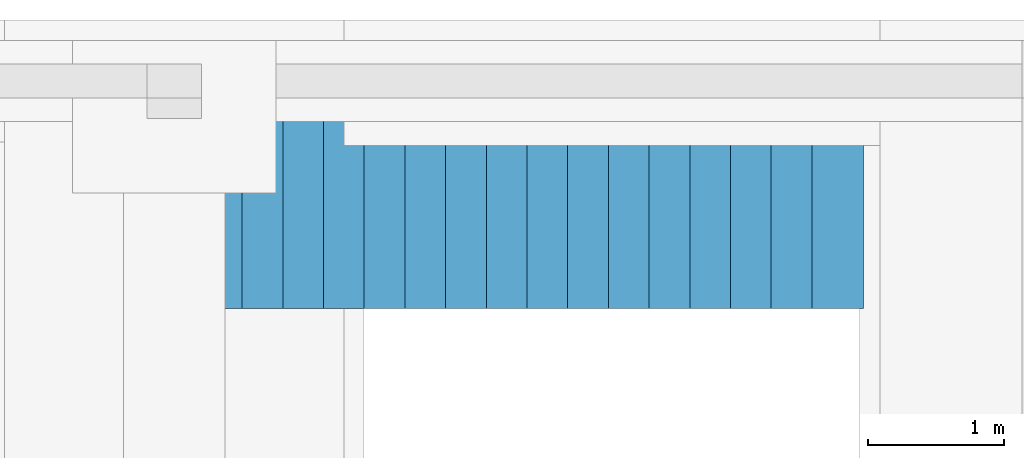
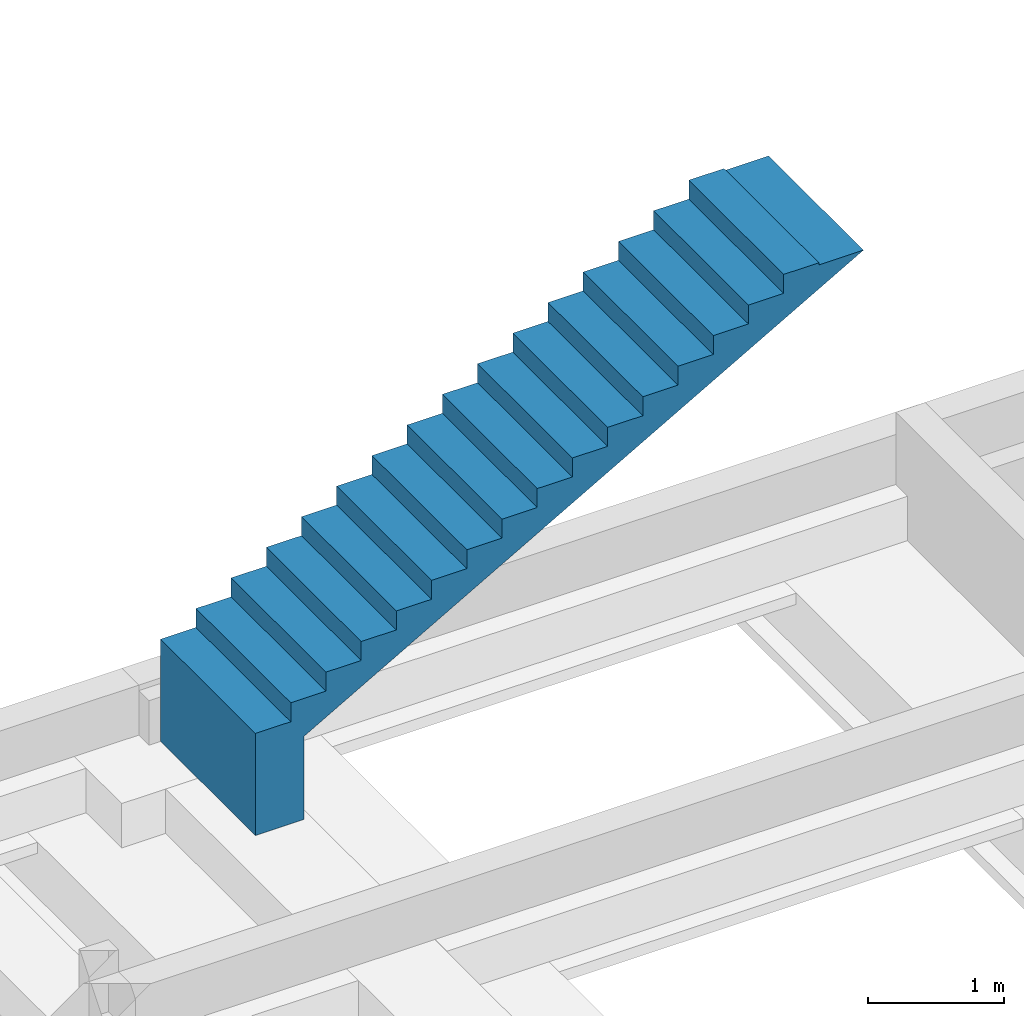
# One storey, part 5 of 6: 1 stair, 1 element without a shape of its own.
"""IFC2X3 building model written with IfcOpenShell, lengths in centimetres."""

from ifc_helpers import new_model, entity, si_unit, converted_unit, derived_unit, direction, frame, origin, place, context, subcontext, project, spatial, polyline, outline, extrude, material, element, aggregate, save


model = new_model("IFC2X3")

# Units and contexts
model_context = context("Model", 3, precision=0.001, world=origin(), true_north=direction((6.12303176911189e-17, 1.0)))
body_context = subcontext(model_context, "Body", "Model", "MODEL_VIEW")
ifc_project = project(units=[si_unit("LENGTHUNIT", "METRE", prefix="CENTI"), si_unit("AREAUNIT", "SQUARE_METRE"), si_unit("VOLUMEUNIT", "CUBIC_METRE"), converted_unit("PLANEANGLEUNIT", "DEGREE", entity("IfcRatioMeasure", 0.0174532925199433), si_unit("PLANEANGLEUNIT", "RADIAN"), dimensions=[0, 0, 0, 0, 0, 0, 0]), si_unit("MASSUNIT", "GRAM", prefix="KILO"), derived_unit("MASSDENSITYUNIT", [(si_unit("MASSUNIT", "GRAM", prefix="KILO"), 1), (si_unit("LENGTHUNIT", "METRE"), -3)]), derived_unit("MOMENTOFINERTIAUNIT", [(si_unit("LENGTHUNIT", "METRE"), 4)]), si_unit("TIMEUNIT", "SECOND"), si_unit("FREQUENCYUNIT", "HERTZ"), si_unit("THERMODYNAMICTEMPERATUREUNIT", "DEGREE_CELSIUS"), derived_unit("THERMALTRANSMITTANCEUNIT", [(si_unit("MASSUNIT", "GRAM", prefix="KILO"), 1), (si_unit("THERMODYNAMICTEMPERATUREUNIT", "KELVIN"), -1), (si_unit("TIMEUNIT", "SECOND"), -3)]), derived_unit("VOLUMETRICFLOWRATEUNIT", [(si_unit("LENGTHUNIT", "METRE"), 3), (si_unit("TIMEUNIT", "SECOND"), -1)]), si_unit("ELECTRICCURRENTUNIT", "AMPERE"), si_unit("ELECTRICVOLTAGEUNIT", "VOLT"), si_unit("POWERUNIT", "WATT"), si_unit("FORCEUNIT", "NEWTON", prefix="KILO"), si_unit("ILLUMINANCEUNIT", "LUX"), si_unit("LUMINOUSFLUXUNIT", "LUMEN"), si_unit("LUMINOUSINTENSITYUNIT", "CANDELA"), derived_unit("USERDEFINED", [(si_unit("MASSUNIT", "GRAM", prefix="KILO"), -1), (si_unit("LENGTHUNIT", "METRE"), -2), (si_unit("TIMEUNIT", "SECOND"), 3), (si_unit("LUMINOUSFLUXUNIT", "LUMEN"), 1)]), derived_unit("LINEARVELOCITYUNIT", [(si_unit("LENGTHUNIT", "METRE"), 1), (si_unit("TIMEUNIT", "SECOND"), -1)]), si_unit("PRESSUREUNIT", "PASCAL"), derived_unit("USERDEFINED", [(si_unit("LENGTHUNIT", "METRE"), -2), (si_unit("MASSUNIT", "GRAM", prefix="KILO"), 1), (si_unit("TIMEUNIT", "SECOND"), -2)]), derived_unit("LINEARFORCEUNIT", [(si_unit("MASSUNIT", "GRAM", prefix="KILO"), 1), (si_unit("LENGTHUNIT", "METRE"), 1), (si_unit("TIMEUNIT", "SECOND"), -2), (si_unit("LENGTHUNIT", "METRE"), -1)]), derived_unit("PLANARFORCEUNIT", [(si_unit("MASSUNIT", "GRAM", prefix="KILO"), 1), (si_unit("LENGTHUNIT", "METRE"), 1), (si_unit("TIMEUNIT", "SECOND"), -2), (si_unit("LENGTHUNIT", "METRE"), -2)])], contexts=[model_context])

# Site, building, storey
site_placement = place(None, origin())
site = spatial("IfcSite", under=ifc_project, at=site_placement, Name="Default", CompositionType="ELEMENT")
building_placement = place(site_placement, origin())
building = spatial("IfcBuilding", under=site, at=building_placement, CompositionType="ELEMENT")
storey_placement = place(building_placement, frame((0.0, 0.0, -115.0)))
storey = spatial("IfcBuildingStorey", under=building, at=storey_placement, Name="Poziom Fundament -1,15", CompositionType="ELEMENT", Elevation=-115.0)

# Stairs
stair_1_placement = place(storey_placement, origin())
stair_1 = element("IfcStair", 1, at=stair_1_placement, inside=storey, Name="Schody bieg1:Schody bieg1", ObjectType="Schody bieg1:Schody bieg1", ShapeType="NOTDEFINED")
ifc_material = material(Name="_Beton, C25/30")
stair_2_placement = place(stair_1_placement, origin())
stair_2 = element("IfcStair", 2, at=stair_2_placement, material=ifc_material, Name="Schody bieg1:Schody bieg1", ObjectType="Schody bieg1:Schody bieg1", ShapeType="NOTDEFINED", context=body_context, shape_type="SweptSolid", body=[
    extrude(outline(polyline([(-236.89230778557, -118.998132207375), (-236.89230778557, -210.998132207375), (-195.392112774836, -210.998132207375), (-195.392112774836, -135.998130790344), (281.194095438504, 135.00186920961), (243.230420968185, 135.00186920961), (243.230420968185, 136.944693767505), (213.230420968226, 136.944693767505), (213.230420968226, 119.885870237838), (183.230420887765, 119.885870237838), (183.230420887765, 102.827003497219), (153.230420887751, 102.827003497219), (153.230420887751, 85.7681799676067), (123.230420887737, 85.7681799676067), (123.230420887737, 68.7093564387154), (93.2304209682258, 68.7093564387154), (93.2304209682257, 51.6505761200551), (63.2304209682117, 51.6505761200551), (63.2304209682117, 34.5917525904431), (33.2304209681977, 34.5917525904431), (33.2304209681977, 17.5328858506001), (3.2304209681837, 17.5328858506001), (3.23042096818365, 0.474062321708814), (-26.7695791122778, 0.474062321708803), (-26.7695791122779, -16.5847612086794), (-56.7695790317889, -16.5847612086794), (-56.769579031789, -33.6435847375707), (-86.7695790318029, -33.6435847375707), (-86.769579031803, -50.7024082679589), (-116.769579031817, -50.7024082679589), (-116.769579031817, -67.761231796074), (-146.769579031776, -67.761231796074), (-146.769579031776, -84.8200553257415), (-176.76957903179, -84.8200553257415), (-176.76957903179, -101.878878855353), (-206.768941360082, -101.878878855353), (-206.768941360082, -118.998132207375), (-236.89230778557, -118.998132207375)])), frame((-752.496165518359, 1925.12745207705, 250.998130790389), z_axis=(0.0, -1.0, 0.0), x_axis=(1.0, 0.0, 0.0)), (0.0, 0.0, -1.0), 139.99999998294),
])
aggregate(stair_1, [stair_2])

save(model, "model.ifc")
